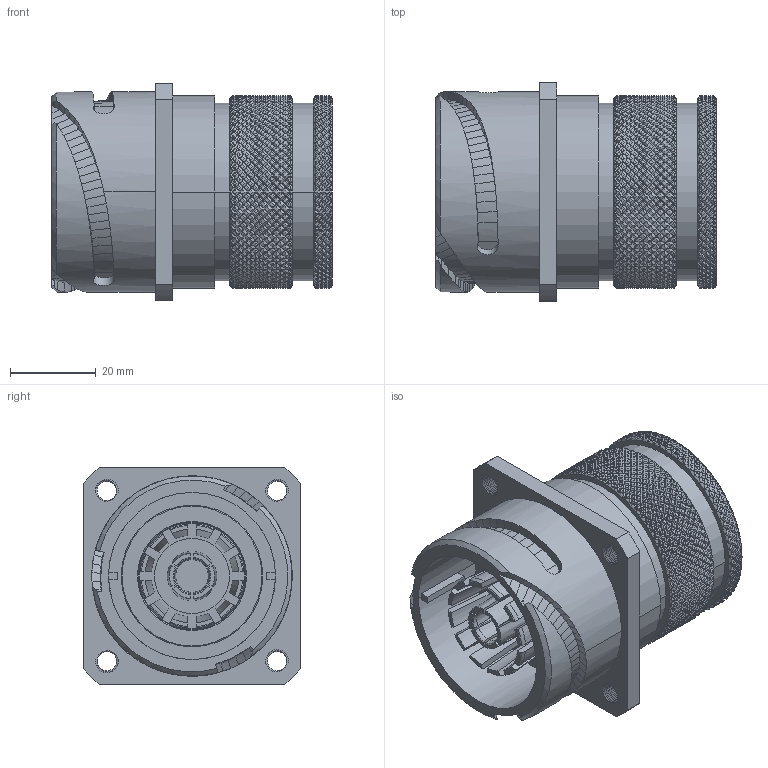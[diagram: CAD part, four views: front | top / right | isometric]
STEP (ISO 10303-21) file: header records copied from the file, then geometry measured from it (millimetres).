
FILE_DESCRIPTION((''),'2;1');
FILE_NAME('GCE3100E28M150S-B-T3_SW0001','2023-06-01T09:10:05',('paultorloting'),('NET AG system integration'),'CREO PARAMETRIC BY PTC INC, 2021404','CREO PARAMETRIC BY PTC INC, 2021404','');
FILE_SCHEMA(('AUTOMOTIVE_DESIGN { 1 0 10303 214 1 1 1 1 }'));
Products named in the file (1): GCE3100E28M150S-B-T3_SW0001
Bounding box: 65.3 x 50.8 x 50.8 mm (x, y, z)
Volume: 84100.3 mm3; surface area: 23253.9 mm2
Topology: 1 solids, 1 shells, 11482 faces, 25575 edges, 14133 vertices
Faces by surface type: bspline 6090, plane 3293, cylinder 1428, extrusion 578, cone 57, torus 36
Entity records: 499513 total; most frequent: CARTESIAN_POINT 232069, ORIENTED_EDGE 51150, EDGE_CURVE 25575, B_SPLINE_CURVE_WITH_KNOTS 22299, DIRECTION 14553, VERTEX_POINT 14133, PRESENTATION_STYLE_ASSIGNMENT 11801, STYLED_ITEM 11801
